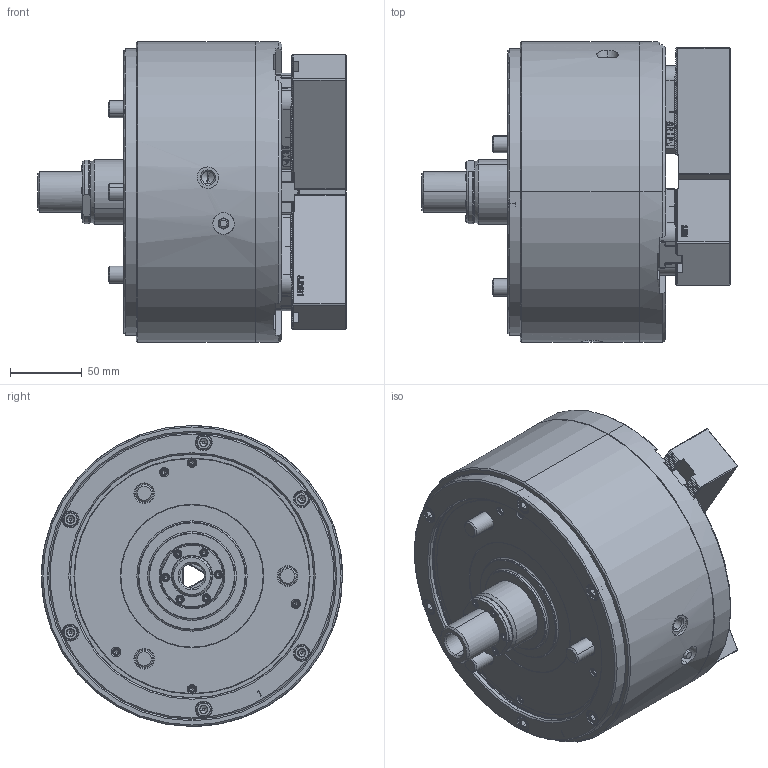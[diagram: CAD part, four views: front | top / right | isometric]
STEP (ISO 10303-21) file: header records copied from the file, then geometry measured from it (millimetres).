
FILE_DESCRIPTION (( 'STEP AP214' ), '1' );
FILE_NAME ('DL208_OC.STEP', '2022-09-07T07:36:14', ( '' ), ( '' ), 'SwSTEP 2.0', 'SolidWorks 2020', '' );
FILE_SCHEMA (( 'AUTOMOTIVE_DESIGN' ));
Length unit declared in the file: millimetre
Products named in the file (5): 0030112030; DL208_OC; 結合DL208_OC^DL208; 61P304291; 61P451466
Assembly tree (13 placements, depth 2):
  DL208_OC
    61P304291  x3
    61P451466  x3
    0030112030  x6
    結合DL208_OC^DL208
Bounding box: 215.1 x 210 x 210 mm (x, y, z)
Volume: 4001232.9 mm3; surface area: 329934.4 mm2
Topology: 13 solids, 50 shells, 7376 faces, 20428 edges, 13368 vertices
Faces by surface type: plane 3961, cylinder 1588, bspline 1166, cone 627, torus 34
Entity records: 218095 total; most frequent: CARTESIAN_POINT 81935, ORIENTED_EDGE 31672, DIRECTION 22850, EDGE_CURVE 15836, VERTEX_POINT 10425, LINE 10292, VECTOR 10292, AXIS2_PLACEMENT_3D 6279
